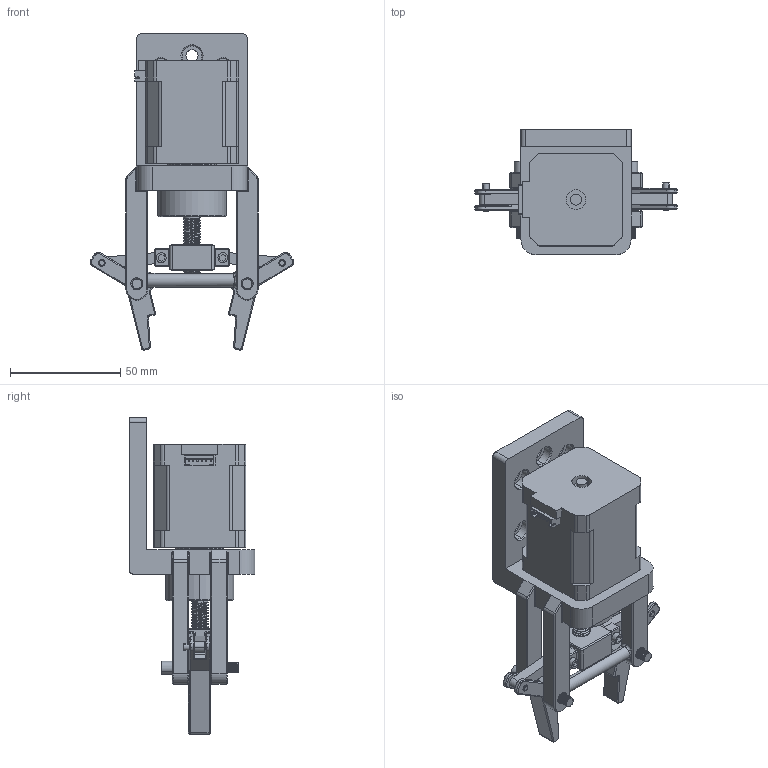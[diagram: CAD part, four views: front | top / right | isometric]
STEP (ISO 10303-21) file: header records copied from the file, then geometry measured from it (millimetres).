
FILE_DESCRIPTION (( 'STEP AP214' ), '1' );
FILE_NAME ('Greiferbaugruppe.STEP', '2026-02-05T11:54:25', ( '' ), ( '' ), 'SwSTEP 2.0', 'SolidWorks 2025', '' );
FILE_SCHEMA (( 'AUTOMOTIVE_DESIGN' ));
Length unit declared in the file: metre
Products named in the file (11): Bolzen_2; Kugellager_22_7_8; Gewindestange; Greifermechanismus_teil1; Greifermechanismus_teil2; Halterung_an_Gewindestange; M2_5_Schraube; Greiferbaugruppe; Halterung_NEMA17; Stepper motor SUPER POWER.step; Bolzen_1
Assembly tree (16 placements, depth 2):
  Greiferbaugruppe
    Halterung_NEMA17
    Kugellager_22_7_8  x2
    Gewindestange
    Halterung_an_Gewindestange
    Greifermechanismus_teil1  x2
    Greifermechanismus_teil2  x2
    Bolzen_1  x2
    Bolzen_2  x2
    M2_5_Schraube  x2
    Stepper motor SUPER POWER.step
Bounding box: 92.09 x 57 x 143.61 mm (x, y, z)
Volume: 172983 mm3; surface area: 54312.2 mm2
Topology: 17 solids, 17 shells, 1234 faces, 3109 edges, 1946 vertices
Faces by surface type: cylinder 566, plane 472, cone 136, bspline 42, torus 18
Entity records: 49579 total; most frequent: CARTESIAN_POINT 26058, ORIENTED_EDGE 5196, DIRECTION 4473, EDGE_CURVE 2598, VERTEX_POINT 1628, AXIS2_PLACEMENT_3D 1516, LINE 1441, VECTOR 1441
